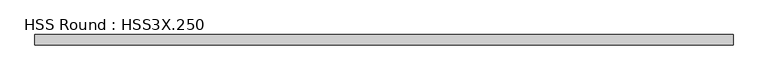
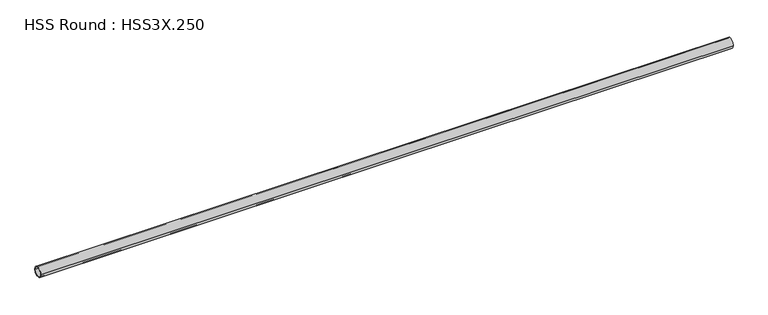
"""IFC4 building model written with IfcOpenShell, lengths in millimetres: member geometry, HSS Round : HSS3X.250."""

from ifc_helpers import new_model, si_unit, point, frame, origin, origin_2d, place, context, project, spatial, circle_curve, trimmed, segment, composite_curve, outline, extrude, source, transform, mapped, element, save


def hss_round_hss3x_250_d4d0d283(model_context):
    return source(origin(), model_context, "Body", "SweptSolid", [
        extrude(outline(composite_curve([segment(trimmed(circle_curve(origin_2d(), 38.1), [point((-38.1, 0.0))], [point((38.1, 0.0))], False, "CARTESIAN"), True, "CONTINUOUS"), segment(trimmed(circle_curve(origin_2d(), 38.1), [point((38.1, 0.0))], [point((-38.1, 0.0))], False, "CARTESIAN"), True, "CONTINUOUS")], self_intersect=False), holes=[composite_curve([segment(trimmed(circle_curve(origin_2d(), 31.75), [point((31.75, 0.0))], [point((-31.75, 0.0))], True, "CARTESIAN"), True, "CONTINUOUS"), segment(trimmed(circle_curve(origin_2d(), 31.75), [point((-31.75, 0.0))], [point((31.75, 0.0))], True, "CARTESIAN"), True, "CONTINUOUS")], self_intersect=False)]), frame((-2612.6680417, 0.0, 0.0), z_axis=(1.0, 0.0, 0.0), x_axis=(0.0, 1.0, 0.0)), (0.0, 0.0, 1.0), 5186.7448519),
    ])


if __name__ == "__main__":
    model = new_model("IFC4")
    model_context = context("Model", 3, world=origin())
    ifc_project = project(units=[si_unit("LENGTHUNIT", "METRE", prefix="MILLI")], contexts=[model_context])
    site = spatial("IfcSite", under=ifc_project)
    building = spatial("IfcBuilding", under=site)
    placement = place(None, origin())
    hss_round_hss3x_250_shape = hss_round_hss3x_250_d4d0d283(model_context)
    element("IfcMember", 1, ObjectType="HSS Round : HSS3X.250", at=placement, inside=building, context=model_context, shape_type="MappedRepresentation", body=[
        mapped(hss_round_hss3x_250_shape, transform((0.0, 0.0, 0.0), x_axis=(1.0, 0.0, 0.0), y_axis=(0.0, 1.0, 0.0), z_axis=(0.0, 0.0, 1.0))),
    ])
    save(model, "model.ifc")
